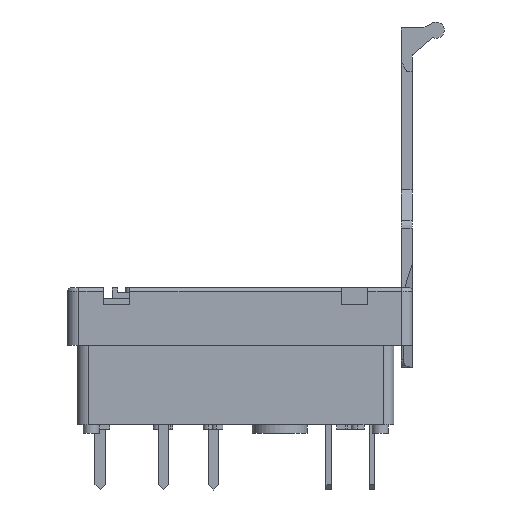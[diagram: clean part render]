
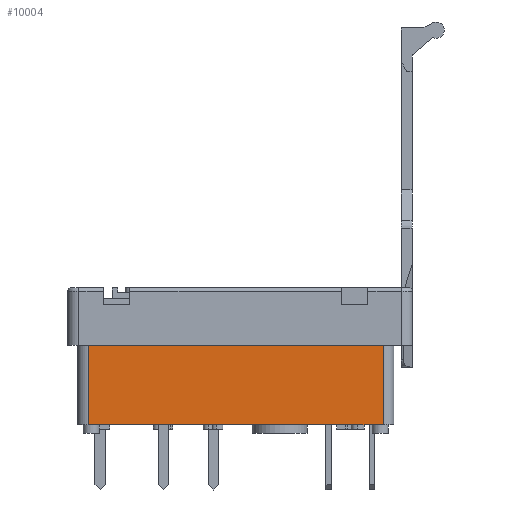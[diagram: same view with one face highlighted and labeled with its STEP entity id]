
A CAD part, left-side view. The second image highlights one B-rep face of the part: STEP entity #10004.
In plain terms, the highlighted planar face has unit normal (-1, 0, 0).
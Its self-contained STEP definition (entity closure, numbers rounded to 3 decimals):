
#1608 = VERTEX_POINT ( 'NONE', #11467 ) ;
#2709 = EDGE_CURVE ( 'NONE', #25591, #20763, #7068, .T. ) ;
#3767 = CARTESIAN_POINT ( 'NONE',  ( 0.95, 32.725, 13.3 ) ) ;
#3772 = ORIENTED_EDGE ( 'NONE', *, *, #14620, .T. ) ;
#6022 = CARTESIAN_POINT ( 'NONE',  ( 0.95, 33.725, 6. ) ) ;
#7068 = LINE ( 'NONE', #7189, #13011 ) ;
#7092 = FACE_OUTER_BOUND ( 'NONE', #10459, .T. ) ;
#7189 = CARTESIAN_POINT ( 'NONE',  ( 0.95, 33.725, 6. ) ) ;
#8192 = LINE ( 'NONE', #16221, #15739 ) ;
#9113 = VECTOR ( 'NONE', #15522, 1000. ) ;
#9482 = VERTEX_POINT ( 'NONE', #3767 ) ;
#9558 = VECTOR ( 'NONE', #18510, 1000. ) ;
#9863 = DIRECTION ( 'NONE',  ( 0., 0., -1. ) ) ;
#10004 = ADVANCED_FACE ( 'NONE', ( #7092 ), #14973, .T. ) ;
#10459 = EDGE_LOOP ( 'NONE', ( #13963, #18404, #11236, #3772 ) ) ;
#10621 = LINE ( 'NONE', #23133, #9558 ) ;
#11236 = ORIENTED_EDGE ( 'NONE', *, *, #2709, .T. ) ;
#11467 = CARTESIAN_POINT ( 'NONE',  ( 0.95, 5.625, 13.3 ) ) ;
#11566 = DIRECTION ( 'NONE',  ( -1., 0., 0. ) ) ;
#11944 = DIRECTION ( 'NONE',  ( 0., -1., 0. ) ) ;
#13011 = VECTOR ( 'NONE', #20767, 1000. ) ;
#13963 = ORIENTED_EDGE ( 'NONE', *, *, #21768, .F. ) ;
#14620 = EDGE_CURVE ( 'NONE', #20763, #1608, #10621, .T. ) ;
#14973 = PLANE ( 'NONE',  #19039 ) ;
#15522 = DIRECTION ( 'NONE',  ( 0., -1., 0. ) ) ;
#15739 = VECTOR ( 'NONE', #9863, 1000. ) ;
#15791 = CARTESIAN_POINT ( 'NONE',  ( 0.95, 33.725, 13.3 ) ) ;
#16221 = CARTESIAN_POINT ( 'NONE',  ( 0.95, 32.725, 6. ) ) ;
#17670 = CARTESIAN_POINT ( 'NONE',  ( 0.95, 5.625, 6. ) ) ;
#18404 = ORIENTED_EDGE ( 'NONE', *, *, #25087, .T. ) ;
#18510 = DIRECTION ( 'NONE',  ( 0., 0., 1. ) ) ;
#19039 = AXIS2_PLACEMENT_3D ( 'NONE', #6022, #11566, #11944 ) ;
#19735 = CARTESIAN_POINT ( 'NONE',  ( 0.95, 32.725, 6. ) ) ;
#20763 = VERTEX_POINT ( 'NONE', #17670 ) ;
#20767 = DIRECTION ( 'NONE',  ( 0., -1., 0. ) ) ;
#21607 = LINE ( 'NONE', #15791, #9113 ) ;
#21768 = EDGE_CURVE ( 'NONE', #9482, #1608, #21607, .T. ) ;
#23133 = CARTESIAN_POINT ( 'NONE',  ( 0.95, 5.625, 30.01 ) ) ;
#25087 = EDGE_CURVE ( 'NONE', #9482, #25591, #8192, .T. ) ;
#25591 = VERTEX_POINT ( 'NONE', #19735 ) ;
